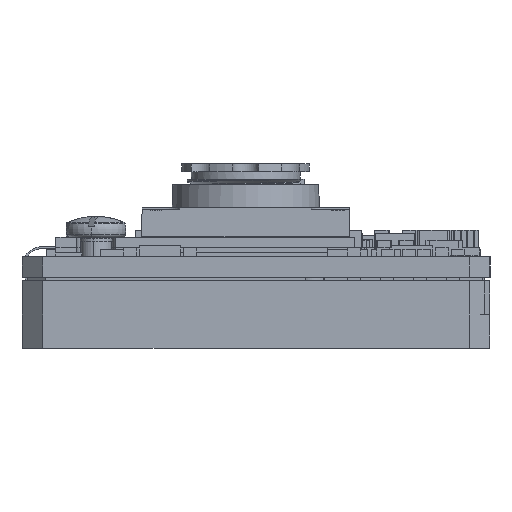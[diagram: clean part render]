
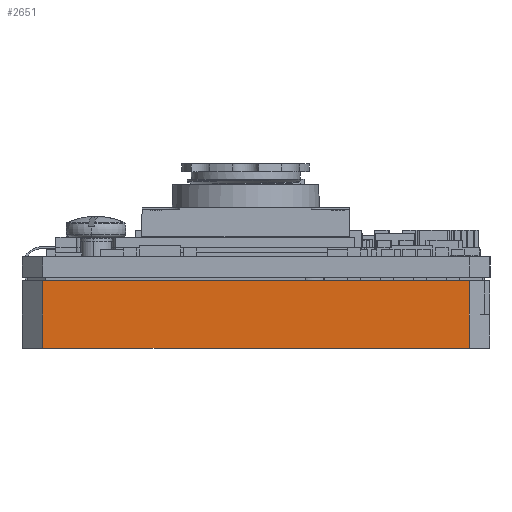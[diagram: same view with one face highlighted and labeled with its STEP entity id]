
A CAD part, left-side view. The second image highlights one B-rep face of the part: STEP entity #2651.
In plain terms, the highlighted planar face has unit normal (-1, 0, 0).
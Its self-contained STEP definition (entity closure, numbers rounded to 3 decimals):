
#2651 = ADVANCED_FACE ( 'NONE', ( #88809 ), #15033, .T. ) ;
#5097 = LINE ( 'NONE', #49371, #52090 ) ;
#15033 = PLANE ( 'NONE',  #27143 ) ;
#16293 = LINE ( 'NONE', #52866, #97433 ) ;
#16666 = CARTESIAN_POINT ( 'NONE',  ( -24.9, 12.745, -5.295 ) ) ;
#17168 = CARTESIAN_POINT ( 'NONE',  ( -24.9, 11.945, -8.077 ) ) ;
#24344 = LINE ( 'NONE', #16666, #64164 ) ;
#27143 = AXIS2_PLACEMENT_3D ( 'NONE', #70499, #61657, #32734 ) ;
#29439 = EDGE_CURVE ( 'NONE', #56676, #109674, #24344, .T. ) ;
#29616 = ORIENTED_EDGE ( 'NONE', *, *, #64392, .T. ) ;
#30823 = CARTESIAN_POINT ( 'NONE',  ( -24.9, -4.45, -7.895 ) ) ;
#32734 = DIRECTION ( 'NONE',  ( 0., -1., 0. ) ) ;
#46025 = DIRECTION ( 'NONE',  ( 0., 0., -1. ) ) ;
#49371 = CARTESIAN_POINT ( 'NONE',  ( -24.9, -4.45, -8.077 ) ) ;
#52090 = VECTOR ( 'NONE', #65947, 1000. ) ;
#52866 = CARTESIAN_POINT ( 'NONE',  ( -24.9, 12.745, -7.895 ) ) ;
#54881 = LINE ( 'NONE', #17168, #116133 ) ;
#55324 = CARTESIAN_POINT ( 'NONE',  ( -24.9, 11.945, -7.895 ) ) ;
#56676 = VERTEX_POINT ( 'NONE', #105804 ) ;
#61657 = DIRECTION ( 'NONE',  ( -1., 0., 0. ) ) ;
#63472 = ORIENTED_EDGE ( 'NONE', *, *, #102955, .T. ) ;
#64164 = VECTOR ( 'NONE', #104060, 1000. ) ;
#64392 = EDGE_CURVE ( 'NONE', #113622, #109674, #5097, .T. ) ;
#65371 = EDGE_LOOP ( 'NONE', ( #90323, #29616, #106084, #63472 ) ) ;
#65947 = DIRECTION ( 'NONE',  ( 0., 0., 1. ) ) ;
#70499 = CARTESIAN_POINT ( 'NONE',  ( -24.9, 12.745, -8.077 ) ) ;
#79424 = CARTESIAN_POINT ( 'NONE',  ( -24.9, -4.45, -5.295 ) ) ;
#81206 = DIRECTION ( 'NONE',  ( 0., 1., 0. ) ) ;
#88809 = FACE_OUTER_BOUND ( 'NONE', #65371, .T. ) ;
#90323 = ORIENTED_EDGE ( 'NONE', *, *, #103935, .F. ) ;
#95486 = VERTEX_POINT ( 'NONE', #55324 ) ;
#97433 = VECTOR ( 'NONE', #81206, 1000. ) ;
#102955 = EDGE_CURVE ( 'NONE', #56676, #95486, #54881, .T. ) ;
#103935 = EDGE_CURVE ( 'NONE', #113622, #95486, #16293, .T. ) ;
#104060 = DIRECTION ( 'NONE',  ( 0., -1., 0. ) ) ;
#105804 = CARTESIAN_POINT ( 'NONE',  ( -24.9, 11.945, -5.295 ) ) ;
#106084 = ORIENTED_EDGE ( 'NONE', *, *, #29439, .F. ) ;
#109674 = VERTEX_POINT ( 'NONE', #79424 ) ;
#113622 = VERTEX_POINT ( 'NONE', #30823 ) ;
#116133 = VECTOR ( 'NONE', #46025, 1000. ) ;
